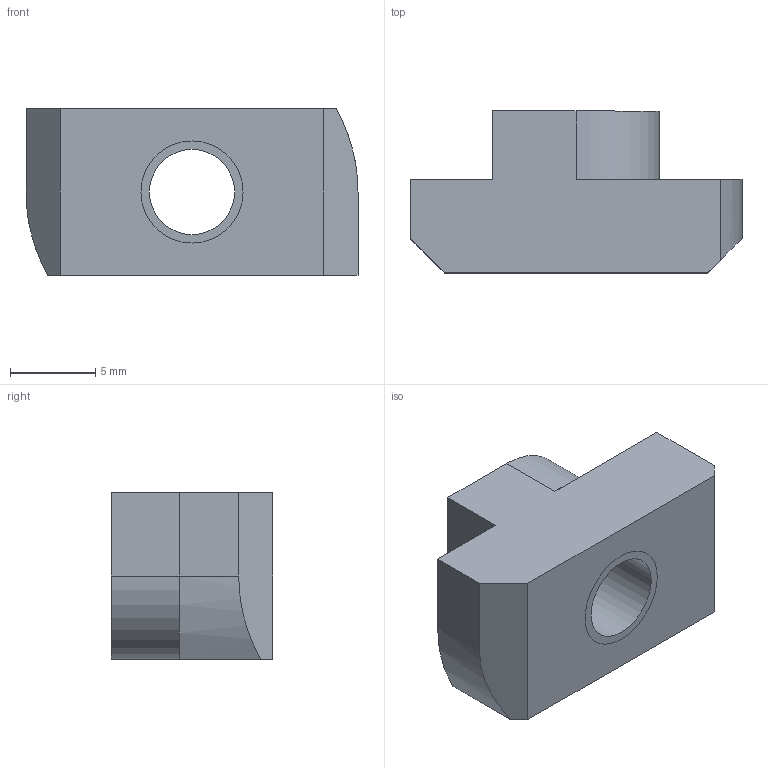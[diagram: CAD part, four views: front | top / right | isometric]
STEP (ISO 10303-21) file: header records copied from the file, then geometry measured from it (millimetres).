
FILE_DESCRIPTION((''),'2;1');
FILE_NAME('DAM0610','2002-12-27T',('Lipro doo'),('Lipro d.o.o.'),'PRO/ENGINEER BY PARAMETRIC TECHNOLOGY CORPORATION, 2001150','PRO/ENGINEER BY PARAMETRIC TECHNOLOGY CORPORATION, 2001150','');
FILE_SCHEMA(('CONFIG_CONTROL_DESIGN'));
Length unit declared in the file: millimetre
Products named in the file (1): DAM0610
Bounding box: 19.5 x 9.5 x 9.8 mm (x, y, z)
Volume: 1149.1 mm3; surface area: 1080.4 mm2
Topology: 1 solids, 2 shells, 22 faces, 58 edges, 38 vertices
Faces by surface type: plane 12, cylinder 8, cone 2
Entity records: 734 total; most frequent: CARTESIAN_POINT 127, DIRECTION 118, ORIENTED_EDGE 112, EDGE_CURVE 58, VECTOR 40, LINE 40, AXIS2_PLACEMENT_3D 39, VERTEX_POINT 38
